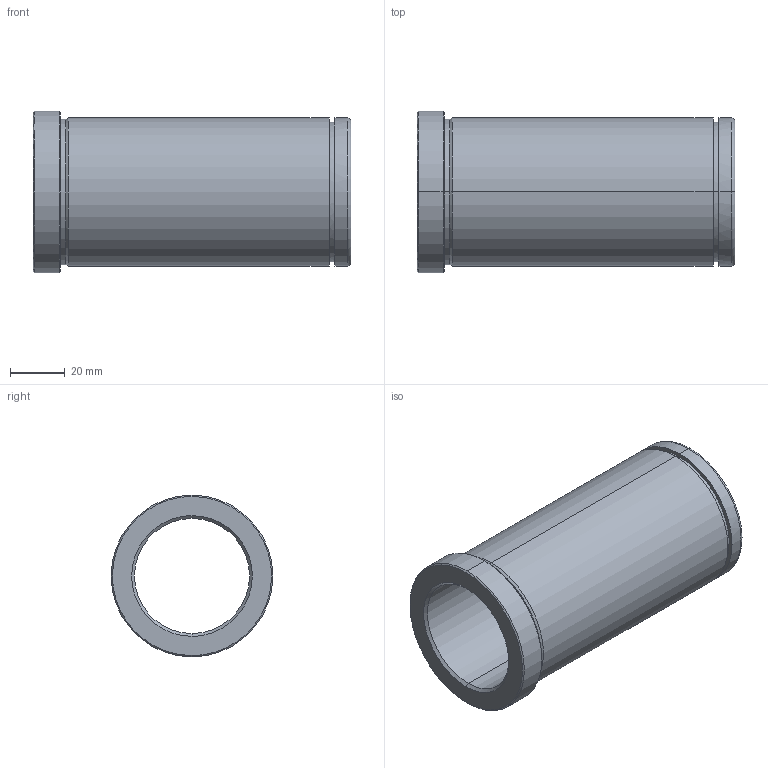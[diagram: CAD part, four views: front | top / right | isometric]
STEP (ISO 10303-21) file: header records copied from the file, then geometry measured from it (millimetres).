
FILE_DESCRIPTION(('CATIA V5 STEP Exchange'),'2;1');
FILE_NAME('C:\Users\Utente\Desktop\IO LAVORO\3D X SITO CF\X SITO\PLASTICA\553\553-42X116.stp','2021-06-08T17:47:02+00:00',('none'),('none'),'CATIA Version 5 Release 20 GA (IN-10)','CATIA V5 STEP AP203','none');
FILE_SCHEMA(('CONFIG_CONTROL_DESIGN'));
Length unit declared in the file: millimetre
Products named in the file (1): 553-42X116
Bounding box: 116 x 59 x 59 mm (x, y, z)
Volume: 108308.3 mm3; surface area: 38000.3 mm2
Topology: 1 solids, 1 shells, 29 faces, 92 edges, 68 vertices
Faces by surface type: cylinder 12, cone 8, plane 5, torus 4
Entity records: 1222 total; most frequent: CARTESIAN_POINT 368, ORIENTED_EDGE 184, DIRECTION 136, EDGE_CURVE 92, AXIS2_PLACEMENT_3D 88, VERTEX_POINT 68, CIRCLE 58, EDGE_LOOP 34
